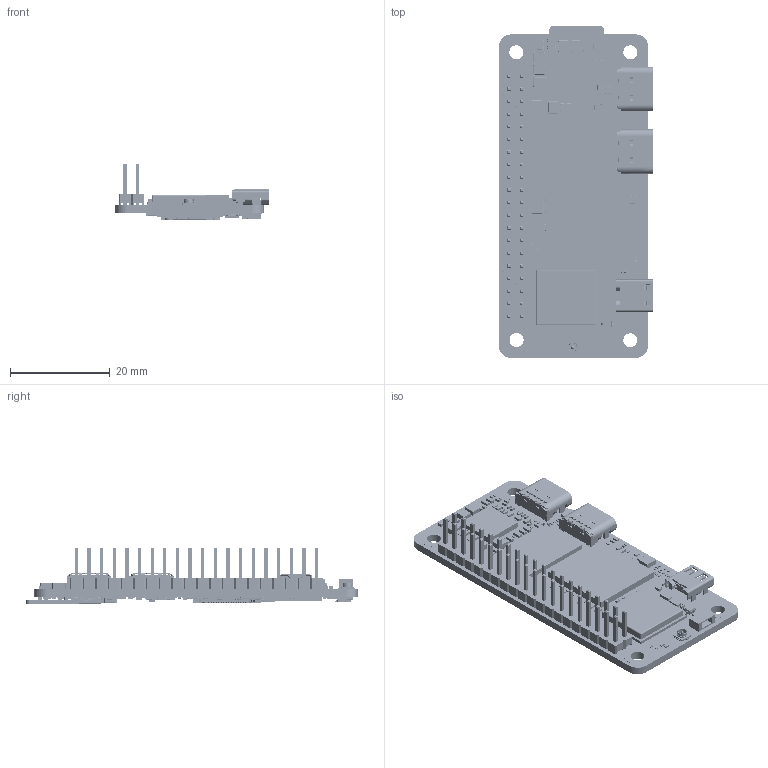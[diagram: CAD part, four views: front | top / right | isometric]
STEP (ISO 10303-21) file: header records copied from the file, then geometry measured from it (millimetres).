
FILE_DESCRIPTION((''),'2;1');
FILE_NAME('RS503_X100-20250331_ASM','2025-06-10T15:10:41',('111'),(''),'CREO PARAMETRIC BY PTC INC, 2025010','CREO PARAMETRIC BY PTC INC, 2025010','');
FILE_SCHEMA(('CONFIG_CONTROL_DESIGN','SHAPE_APPEARANCE_LAYERS_GROUPS'));
Products named in the file (47): RS503_X100-20250331; SW_SM2_2D5_STA; LGA22_1D27_12D2_13D0; SOD_323; QFN14_0D5_2D5; HOLE_5D5_2D7; LED_D0603; FB0805; FB0603; SOT_723; SOT_23; OSC_SM4_2D5X2D0; XSON10_0D5_1D1X2D6; BGA153_0D5_11D5; DFN1006-2L; ESD_D0402; SOD_123; L_2520; TP_0D5; BGA570P40_50B1500_1500H95; SOT23_5; OSC_SM2_3D2X1D5; C0201; C0603; C0402; R0201; R0402; R0603; BGA147P50B800_800H113; BGA200P65_80B1000_1500H90; 000_9_5; BODY44-4555; USB-16PIN-TYPEC_FIN_1_252_2_5; FPC_31P; MICRO-RFB01-H10-01_3_2; MICRO-RFB01-S10-02_1_2; MICRO-RFB01-T00-03_3_2; MICRO-RFB01-A10-00_ASM_3_ASM_2_ASM; MICRO-RFB01-A10-00_ASM_ASM_2_ASM; MICRO-RFB01_ASM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
Assembly tree (498 placements, depth 5):
  RS503_X100-20250331_ASM
    RS503_X100-20250331
    SW_SM2_2D5_STA
    LGA22_1D27_12D2_13D0
    SOD_323
    QFN14_0D5_2D5
    HOLE_5D5_2D7  x4
    LED_D0603
    FB0805
    FB0603
    SOT_723
    SOT_23
    OSC_SM4_2D5X2D0
    XSON10_0D5_1D1X2D6  x2
    BGA153_0D5_11D5
    DFN1006-2L  x19
    ESD_D0402
    SOD_123
    L_2520  x9
    TP_0D5  x2
    BGA570P40_50B1500_1500H95
    SOT23_5
    OSC_SM2_3D2X1D5
    C0201  x176
    C0603  x51
    C0402  x53
    R0201  x106
    R0402  x36
    R0603  x4
    BGA147P50B800_800H113
    BGA200P65_80B1000_1500H90
    000_9_5
    BODY44-4555
    USB-16PIN-TYPEC_FIN_1_252_2_5  x2
    FPC_31P
    MICRO-RFB01_ASM
      MICRO-RFB01-A10-00_ASM_ASM_2_ASM
        MICRO-RFB01-A10-00_ASM_3_ASM_2_ASM
          MICRO-RFB01-H10-01_3_2
          MICRO-RFB01-S10-02_1_2
          MICRO-RFB01-T00-03_3_2
    FFC_FPC_AFFC23-16-050-SHB-R_ASM
      FFC_FPC_AFFC23-16-050-SHB--1403_ASM
        FFC_FPC_AFFC23-16-050-SHB--4184
        FFC_FPC_AFFC23-16-050-SHB-R_2
        FFC_FPC_AFFC23-16-050-SHB-R_3
    USER_LIBRARY-TF-123-ARP9H15
Bounding box: 31.01 x 66.7 x 11.45 mm (x, y, z)
Volume: 5148.5 mm3; surface area: 11357 mm2
Topology: 573 solids, 589 shells, 28689 faces, 64429 edges, 36771 vertices
Faces by surface type: plane 12083, cylinder 11318, sphere 4160, torus 1045, bspline 35, cone 28, extrusion 20
Entity records: 202159 total; most frequent: CARTESIAN_POINT 34445, ORIENTED_EDGE 29148, DIRECTION 27995, EDGE_CURVE 14580, VECTOR 12339, LINE 12327, VERTEX_POINT 9357, AXIS2_PLACEMENT_3D 7828
